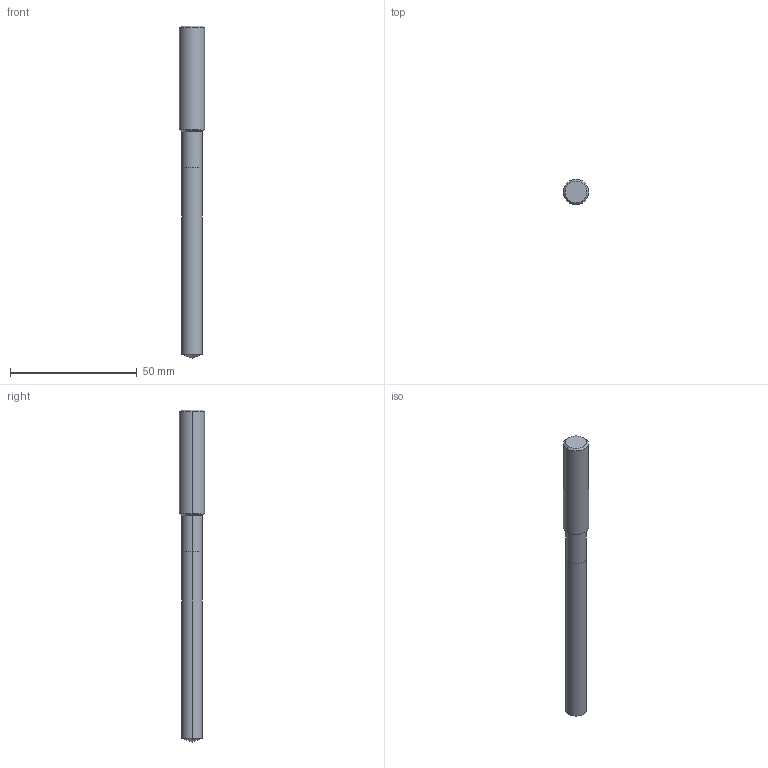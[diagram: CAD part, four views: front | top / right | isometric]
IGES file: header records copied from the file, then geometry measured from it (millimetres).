
Start section: 3D InterOp IGES (v. 2020 1.0.1), Spatial Corp. Copyright (c) 1999-2017.
Global section: file name: WZB12225_8.2.igs; native system: Spatial Corp.; preprocessor: 3D InterOp GENERIC/IGES 3.0; author: Noname; organization: Noname; date: 20201104.104716; units: metre
Bounding box: 10 x 10 x 131 mm (x, y, z)
Surface area: 3703 mm2 (no closed solid volume)
Topology: 0 solids, 0 shells, 14 faces, 54 edges, 52 vertices
Faces by surface type: revolution 12, extrusion 2
